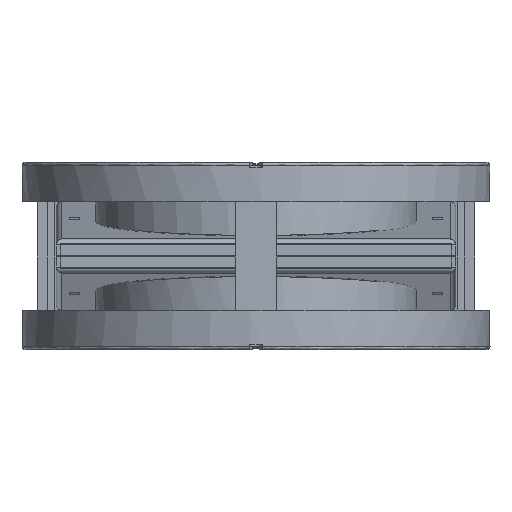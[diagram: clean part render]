
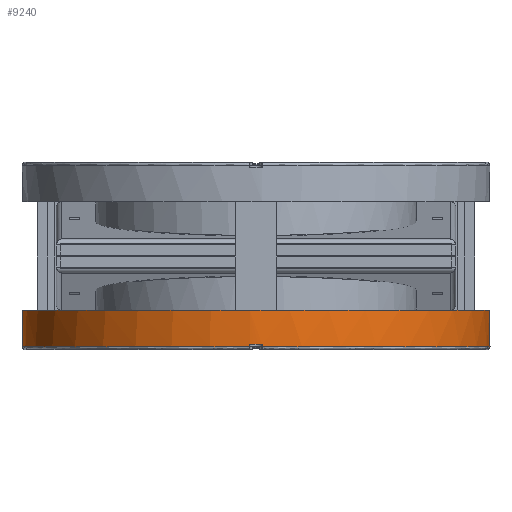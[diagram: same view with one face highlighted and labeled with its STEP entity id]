
A CAD part, front view. The second image highlights one B-rep face of the part: STEP entity #9240.
In plain terms, the highlighted cylindrical face has radius 112.4 mm (diameter 224.8 mm), a full revolution.
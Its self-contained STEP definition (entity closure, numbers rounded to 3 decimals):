
#3632=FACE_BOUND('',#11898,.T.);
#3633=FACE_BOUND('',#11899,.T.);
#4498=CIRCLE('',#25314,112.4);
#4499=CIRCLE('',#25315,112.4);
#4500=CIRCLE('',#25316,112.4);
#4501=CIRCLE('',#25317,112.4);
#4502=CIRCLE('',#25318,112.4);
#6152=LINE('',#34830,#7717);
#6153=LINE('',#34834,#7718);
#6154=LINE('',#34838,#7719);
#6155=LINE('',#34842,#7720);
#7717=VECTOR('',#27897,1.);
#7718=VECTOR('',#27900,1.);
#7719=VECTOR('',#27903,1.);
#7720=VECTOR('',#27906,1.);
#9240=ADVANCED_FACE('',(#3632,#3633),#10400,.T.);
#10400=CYLINDRICAL_SURFACE('',#25320,112.4);
#11898=EDGE_LOOP('',(#14508,#14509,#14510,#14511,#14512,#14513,#14514,#14515));
#11899=EDGE_LOOP('',(#14516,#14517));
#14508=ORIENTED_EDGE('',*,*,#22331,.T.);
#14509=ORIENTED_EDGE('',*,*,#22332,.T.);
#14510=ORIENTED_EDGE('',*,*,#22333,.T.);
#14511=ORIENTED_EDGE('',*,*,#22334,.T.);
#14512=ORIENTED_EDGE('',*,*,#22335,.T.);
#14513=ORIENTED_EDGE('',*,*,#22336,.T.);
#14514=ORIENTED_EDGE('',*,*,#22337,.T.);
#14515=ORIENTED_EDGE('',*,*,#22338,.T.);
#14516=ORIENTED_EDGE('',*,*,#22339,.F.);
#14517=ORIENTED_EDGE('',*,*,#22340,.T.);
#20088=VERTEX_POINT('',#34828);
#20089=VERTEX_POINT('',#34829);
#20090=VERTEX_POINT('',#34831);
#20091=VERTEX_POINT('',#34833);
#20092=VERTEX_POINT('',#34835);
#20093=VERTEX_POINT('',#34837);
#20094=VERTEX_POINT('',#34839);
#20095=VERTEX_POINT('',#34841);
#20096=VERTEX_POINT('',#34844);
#20097=VERTEX_POINT('',#34845);
#22331=EDGE_CURVE('',#20088,#20089,#4498,.T.);
#22332=EDGE_CURVE('',#20089,#20090,#6152,.T.);
#22333=EDGE_CURVE('',#20090,#20091,#4499,.T.);
#22334=EDGE_CURVE('',#20091,#20092,#6153,.T.);
#22335=EDGE_CURVE('',#20092,#20093,#4500,.T.);
#22336=EDGE_CURVE('',#20093,#20094,#6154,.T.);
#22337=EDGE_CURVE('',#20094,#20095,#4501,.T.);
#22338=EDGE_CURVE('',#20095,#20088,#6155,.T.);
#22339=EDGE_CURVE('',#20096,#20097,#4502,.T.);
#22340=EDGE_CURVE('',#20096,#20097,#25058,.T.);
#25058=ELLIPSE('',#25319,112.829,112.4);
#25314=AXIS2_PLACEMENT_3D('',#34827,#27895,#27896);
#25315=AXIS2_PLACEMENT_3D('',#34832,#27898,#27899);
#25316=AXIS2_PLACEMENT_3D('',#34836,#27901,#27902);
#25317=AXIS2_PLACEMENT_3D('',#34840,#27904,#27905);
#25318=AXIS2_PLACEMENT_3D('',#34843,#27907,#27908);
#25319=AXIS2_PLACEMENT_3D('',#34846,#27909,#27910);
#25320=AXIS2_PLACEMENT_3D('',#34847,#27911,#27912);
#27895=DIRECTION('',(1.,0.,0.));
#27896=DIRECTION('',(0.,1.,0.027));
#27897=DIRECTION('',(1.,0.,0.));
#27898=DIRECTION('',(1.,0.,0.));
#27899=DIRECTION('',(0.,-1.,0.027));
#27900=DIRECTION('',(-1.,0.,0.));
#27901=DIRECTION('',(1.,0.,0.));
#27902=DIRECTION('',(0.,-1.,-0.027));
#27903=DIRECTION('',(1.,0.,0.));
#27904=DIRECTION('',(1.,0.,0.));
#27905=DIRECTION('',(0.,1.,-0.027));
#27906=DIRECTION('',(-1.,0.,0.));
#27907=DIRECTION('',(1.,0.,0.));
#27908=DIRECTION('',(0.,-1.,0.));
#27909=DIRECTION('',(-0.996,-0.087,0.));
#27910=DIRECTION('',(0.087,-0.996,0.));
#27911=DIRECTION('',(1.,0.,0.));
#27912=DIRECTION('',(0.,-1.,0.));
#34827=CARTESIAN_POINT('',(-17.5,0.,0.));
#34828=CARTESIAN_POINT('',(-17.5,112.36,3.));
#34829=CARTESIAN_POINT('',(-17.5,-112.36,3.));
#34830=CARTESIAN_POINT('',(-17.5,-112.36,3.));
#34831=CARTESIAN_POINT('',(-16.5,-112.36,3.));
#34832=CARTESIAN_POINT('',(-16.5,0.,0.));
#34833=CARTESIAN_POINT('',(-16.5,-112.36,-3.));
#34834=CARTESIAN_POINT('',(-16.5,-112.36,-3.));
#34835=CARTESIAN_POINT('',(-17.5,-112.36,-3.));
#34836=CARTESIAN_POINT('',(-17.5,0.,0.));
#34837=CARTESIAN_POINT('',(-17.5,112.36,-3.));
#34838=CARTESIAN_POINT('',(-17.5,112.36,-3.));
#34839=CARTESIAN_POINT('',(-16.5,112.36,-3.));
#34840=CARTESIAN_POINT('',(-16.5,0.,0.));
#34841=CARTESIAN_POINT('',(-16.5,112.36,3.));
#34842=CARTESIAN_POINT('',(-16.5,112.36,3.));
#34843=CARTESIAN_POINT('',(0.,0.,0.));
#34844=CARTESIAN_POINT('',(0.,108.597,28.991));
#34845=CARTESIAN_POINT('',(0.,108.597,-28.991));
#34846=CARTESIAN_POINT('',(9.501,0.,0.));
#34847=CARTESIAN_POINT('',(-19.,0.,0.));
